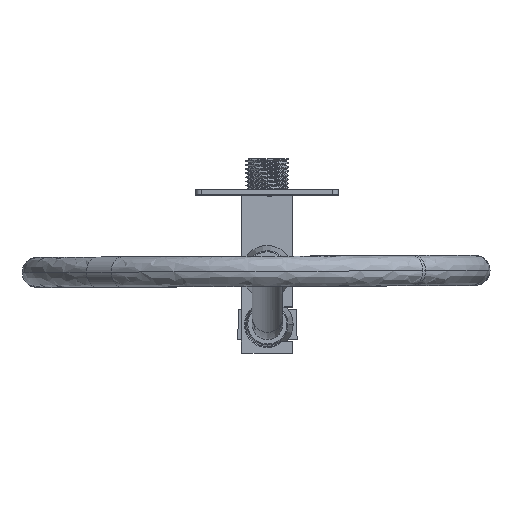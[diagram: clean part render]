
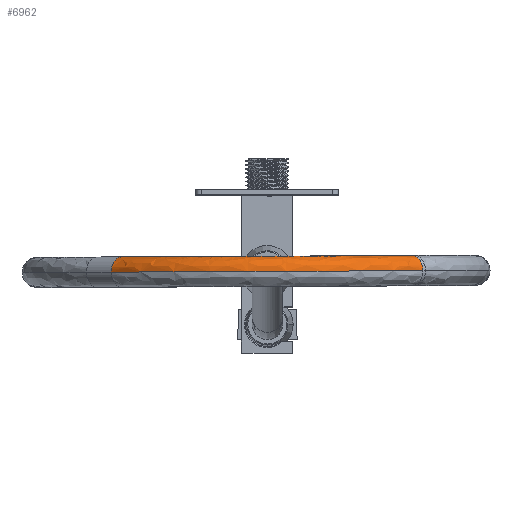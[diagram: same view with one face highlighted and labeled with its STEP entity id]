
A CAD part, left-side view. The second image highlights one B-rep face of the part: STEP entity #6962.
In plain terms, the highlighted free-form (B-spline) face has degree [3, 3] with [4, 4] control points.
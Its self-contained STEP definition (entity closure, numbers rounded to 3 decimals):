
#710 = VERTEX_POINT ( 'NONE', #6073 ) ;
#884 = CARTESIAN_POINT ( 'NONE',  ( 14.8, -364.994, 27.122 ) ) ;
#997 = AXIS2_PLACEMENT_3D ( 'NONE', #11618, #1673, #10539 ) ;
#1260 = CARTESIAN_POINT ( 'NONE',  ( 0., -337.103, -75.943 ) ) ;
#1291 = CARTESIAN_POINT ( 'NONE',  ( 0., -331.87, 70.711 ) ) ;
#1673 = DIRECTION ( 'NONE',  ( 1., 0., 0. ) ) ;
#1710 = EDGE_CURVE ( 'NONE', #7952, #710, #2046, .T. ) ;
#1739 = CARTESIAN_POINT ( 'NONE',  ( 14.8, -337.103, 75.943 ) ) ;
#2046 = CIRCLE ( 'NONE', #5997, 7.4 ) ;
#2111 =( BOUNDED_SURFACE ( )  B_SPLINE_SURFACE ( 3, 3, ( 
 ( #7261, #5095, #6461, #13062 ),
 ( #8478, #884, #12902, #9439 ),
 ( #1739, #3933, #2831, #10606 ),
 ( #13853, #14075, #6391, #12754 ) ),
 .UNSPECIFIED., .F., .F., .F. ) 
 B_SPLINE_SURFACE_WITH_KNOTS ( ( 4, 4 ),
 ( 4, 4 ),
 ( 0., 1. ),
 ( 0., 1. ),
 .UNSPECIFIED. ) 
 GEOMETRIC_REPRESENTATION_ITEM ( )  RATIONAL_B_SPLINE_SURFACE ( (
 ( 1., 0.805, 0.805, 1.),
 ( 0.333, 0.268, 0.268, 0.333),
 ( 0.333, 0.268, 0.268, 0.333),
 ( 1., 0.805, 0.805, 1.) ) ) 
 REPRESENTATION_ITEM ( '' )  SURFACE ( )  );
#2508 = EDGE_CURVE ( 'NONE', #6422, #12508, #3481, .T. ) ;
#2831 = CARTESIAN_POINT ( 'NONE',  ( 14.8, -381.589, -31.457 ) ) ;
#3085 = CIRCLE ( 'NONE', #6801, 107.4 ) ;
#3481 = CIRCLE ( 'NONE', #10187, 7.4 ) ;
#3933 = CARTESIAN_POINT ( 'NONE',  ( 14.8, -381.589, 31.457 ) ) ;
#4736 = ORIENTED_EDGE ( 'NONE', *, *, #10306, .F. ) ;
#5095 = CARTESIAN_POINT ( 'NONE',  ( 0., -364.994, 27.122 ) ) ;
#5346 = EDGE_CURVE ( 'NONE', #710, #12508, #3085, .T. ) ;
#5468 = DIRECTION ( 'NONE',  ( 1., 0., 0. ) ) ;
#5997 = AXIS2_PLACEMENT_3D ( 'NONE', #1291, #11007, #10060 ) ;
#6073 = CARTESIAN_POINT ( 'NONE',  ( 0., -337.103, 75.943 ) ) ;
#6391 = CARTESIAN_POINT ( 'NONE',  ( 0., -381.589, -31.457 ) ) ;
#6422 = VERTEX_POINT ( 'NONE', #13682 ) ;
#6461 = CARTESIAN_POINT ( 'NONE',  ( 0., -364.994, -27.122 ) ) ;
#6474 = CARTESIAN_POINT ( 'NONE',  ( 0., -261.159, 0. ) ) ;
#6769 = DIRECTION ( 'NONE',  ( 0., 0.707, -0.707 ) ) ;
#6801 = AXIS2_PLACEMENT_3D ( 'NONE', #6474, #5468, #8859 ) ;
#6962 = ADVANCED_FACE ( 'NONE', ( #10326 ), #2111, .T. ) ;
#6989 = DIRECTION ( 'NONE',  ( 0., 0.707, 0.707 ) ) ;
#7249 = CIRCLE ( 'NONE', #997, 92.6 ) ;
#7261 = CARTESIAN_POINT ( 'NONE',  ( 0., -326.637, 65.478 ) ) ;
#7929 = ORIENTED_EDGE ( 'NONE', *, *, #5346, .T. ) ;
#7952 = VERTEX_POINT ( 'NONE', #7967 ) ;
#7967 = CARTESIAN_POINT ( 'NONE',  ( 0., -326.637, 65.478 ) ) ;
#8478 = CARTESIAN_POINT ( 'NONE',  ( 14.8, -326.637, 65.478 ) ) ;
#8859 = DIRECTION ( 'NONE',  ( 0., 0., -1. ) ) ;
#8994 = ORIENTED_EDGE ( 'NONE', *, *, #1710, .T. ) ;
#9439 = CARTESIAN_POINT ( 'NONE',  ( 14.8, -326.637, -65.478 ) ) ;
#10060 = DIRECTION ( 'NONE',  ( 0., -0.707, 0.707 ) ) ;
#10187 = AXIS2_PLACEMENT_3D ( 'NONE', #11336, #6769, #6989 ) ;
#10306 = EDGE_CURVE ( 'NONE', #7952, #6422, #7249, .T. ) ;
#10326 = FACE_OUTER_BOUND ( 'NONE', #13519, .T. ) ;
#10539 = DIRECTION ( 'NONE',  ( 0., 0., -1. ) ) ;
#10606 = CARTESIAN_POINT ( 'NONE',  ( 14.8, -337.103, -75.943 ) ) ;
#11007 = DIRECTION ( 'NONE',  ( 0., -0.707, -0.707 ) ) ;
#11336 = CARTESIAN_POINT ( 'NONE',  ( 0., -331.87, -70.711 ) ) ;
#11618 = CARTESIAN_POINT ( 'NONE',  ( 0., -261.159, 0. ) ) ;
#12508 = VERTEX_POINT ( 'NONE', #1260 ) ;
#12754 = CARTESIAN_POINT ( 'NONE',  ( 0., -337.103, -75.943 ) ) ;
#12902 = CARTESIAN_POINT ( 'NONE',  ( 14.8, -364.994, -27.122 ) ) ;
#13062 = CARTESIAN_POINT ( 'NONE',  ( 0., -326.637, -65.478 ) ) ;
#13519 = EDGE_LOOP ( 'NONE', ( #4736, #8994, #7929, #14104 ) ) ;
#13682 = CARTESIAN_POINT ( 'NONE',  ( 0., -326.637, -65.478 ) ) ;
#13853 = CARTESIAN_POINT ( 'NONE',  ( 0., -337.103, 75.943 ) ) ;
#14075 = CARTESIAN_POINT ( 'NONE',  ( 0., -381.589, 31.457 ) ) ;
#14104 = ORIENTED_EDGE ( 'NONE', *, *, #2508, .F. ) ;
